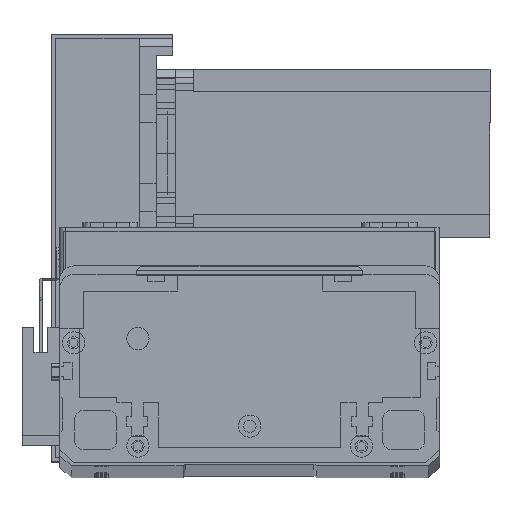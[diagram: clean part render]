
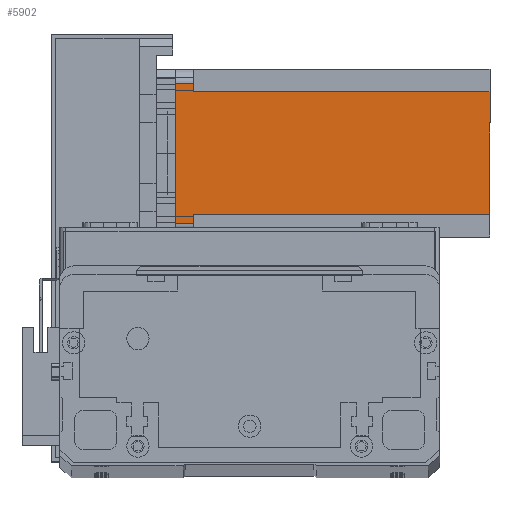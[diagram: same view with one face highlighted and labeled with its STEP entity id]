
A CAD part, top view. The second image highlights one B-rep face of the part: STEP entity #5902.
In plain terms, the highlighted planar face has unit normal (0, 0, 1) as drawn and (0, -1, 0) by its records, which use the part's own axes.
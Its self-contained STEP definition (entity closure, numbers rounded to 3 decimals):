
#375 = ORIENTED_EDGE ( 'NONE', *, *, #24378, .F. ) ;
#950 = CARTESIAN_POINT ( 'NONE',  ( 8., 0., -112.5 ) ) ;
#979 = EDGE_LOOP ( 'NONE', ( #23464, #2568, #9602, #11728, #375, #29562, #9226, #14332 ) ) ;
#1049 = VERTEX_POINT ( 'NONE', #22231 ) ;
#1223 = CARTESIAN_POINT ( 'NONE',  ( 8., 0., -6.5 ) ) ;
#2568 = ORIENTED_EDGE ( 'NONE', *, *, #23502, .T. ) ;
#4969 = CARTESIAN_POINT ( 'NONE',  ( 0., 0., -112.5 ) ) ;
#5100 = PLANE ( 'NONE',  #12643 ) ;
#5138 = DIRECTION ( 'NONE',  ( 0., -1., 0. ) ) ;
#5165 = DIRECTION ( 'NONE',  ( 0., 0., -1. ) ) ;
#5411 = VECTOR ( 'NONE', #24862, 1000. ) ;
#5902 = ADVANCED_FACE ( 'NONE', ( #26648 ), #5100, .T. ) ;
#6650 = DIRECTION ( 'NONE',  ( 0., 0., -1. ) ) ;
#6812 = VERTEX_POINT ( 'NONE', #1223 ) ;
#6894 = DIRECTION ( 'NONE',  ( 1., 0., 0. ) ) ;
#7329 = VERTEX_POINT ( 'NONE', #12982 ) ;
#8804 = LINE ( 'NONE', #24829, #26979 ) ;
#9226 = ORIENTED_EDGE ( 'NONE', *, *, #24978, .T. ) ;
#9602 = ORIENTED_EDGE ( 'NONE', *, *, #15748, .F. ) ;
#9853 = LINE ( 'NONE', #30039, #27996 ) ;
#10680 = VECTOR ( 'NONE', #6650, 1000. ) ;
#10839 = CARTESIAN_POINT ( 'NONE',  ( 52., 0., -6.5 ) ) ;
#10865 = CARTESIAN_POINT ( 'NONE',  ( 55., 0., -6.5 ) ) ;
#11419 = DIRECTION ( 'NONE',  ( -1., 0., 0. ) ) ;
#11728 = ORIENTED_EDGE ( 'NONE', *, *, #23711, .T. ) ;
#11743 = LINE ( 'NONE', #950, #5411 ) ;
#12643 = AXIS2_PLACEMENT_3D ( 'NONE', #4969, #5138, #5165 ) ;
#12879 = LINE ( 'NONE', #30236, #10680 ) ;
#12982 = CARTESIAN_POINT ( 'NONE',  ( 5., 0., 0. ) ) ;
#13121 = VERTEX_POINT ( 'NONE', #10839 ) ;
#13520 = DIRECTION ( 'NONE',  ( 0., 0., -1. ) ) ;
#13765 = DIRECTION ( 'NONE',  ( 1., 0., 0. ) ) ;
#14332 = ORIENTED_EDGE ( 'NONE', *, *, #25542, .F. ) ;
#14368 = VECTOR ( 'NONE', #11419, 1000. ) ;
#15393 = VERTEX_POINT ( 'NONE', #30536 ) ;
#15748 = EDGE_CURVE ( 'NONE', #7329, #15393, #22371, .T. ) ;
#16755 = VECTOR ( 'NONE', #18868, 1000. ) ;
#17816 = VECTOR ( 'NONE', #6894, 1000. ) ;
#18548 = CARTESIAN_POINT ( 'NONE',  ( 8., 0., -6.5 ) ) ;
#18556 = LINE ( 'NONE', #30366, #17816 ) ;
#18868 = DIRECTION ( 'NONE',  ( 1., 0., 0. ) ) ;
#18945 = CARTESIAN_POINT ( 'NONE',  ( 0., 0., 0. ) ) ;
#18952 = VERTEX_POINT ( 'NONE', #25802 ) ;
#20917 = CARTESIAN_POINT ( 'NONE',  ( 5., 0., -6.5 ) ) ;
#21265 = VERTEX_POINT ( 'NONE', #20917 ) ;
#22231 = CARTESIAN_POINT ( 'NONE',  ( 8., 0., -112.5 ) ) ;
#22371 = LINE ( 'NONE', #18945, #16755 ) ;
#23216 = EDGE_CURVE ( 'NONE', #13121, #28954, #18556, .T. ) ;
#23464 = ORIENTED_EDGE ( 'NONE', *, *, #23216, .T. ) ;
#23502 = EDGE_CURVE ( 'NONE', #28954, #15393, #8804, .T. ) ;
#23711 = EDGE_CURVE ( 'NONE', #7329, #21265, #12879, .T. ) ;
#24378 = EDGE_CURVE ( 'NONE', #6812, #21265, #26987, .T. ) ;
#24791 = EDGE_CURVE ( 'NONE', #1049, #6812, #11743, .T. ) ;
#24819 = LINE ( 'NONE', #25648, #30116 ) ;
#24829 = CARTESIAN_POINT ( 'NONE',  ( 55., 0., -112.5 ) ) ;
#24862 = DIRECTION ( 'NONE',  ( 0., 0., 1. ) ) ;
#24978 = EDGE_CURVE ( 'NONE', #1049, #18952, #24819, .T. ) ;
#25542 = EDGE_CURVE ( 'NONE', #13121, #18952, #9853, .T. ) ;
#25648 = CARTESIAN_POINT ( 'NONE',  ( 0., 0., -112.5 ) ) ;
#25802 = CARTESIAN_POINT ( 'NONE',  ( 52., 0., -112.5 ) ) ;
#26648 = FACE_OUTER_BOUND ( 'NONE', #979, .T. ) ;
#26979 = VECTOR ( 'NONE', #27119, 1000. ) ;
#26987 = LINE ( 'NONE', #18548, #14368 ) ;
#27119 = DIRECTION ( 'NONE',  ( 0., 0., 1. ) ) ;
#27996 = VECTOR ( 'NONE', #13520, 1000. ) ;
#28954 = VERTEX_POINT ( 'NONE', #10865 ) ;
#29562 = ORIENTED_EDGE ( 'NONE', *, *, #24791, .F. ) ;
#30039 = CARTESIAN_POINT ( 'NONE',  ( 52., 0., -112.5 ) ) ;
#30116 = VECTOR ( 'NONE', #13765, 1000. ) ;
#30236 = CARTESIAN_POINT ( 'NONE',  ( 5., 0., -112.5 ) ) ;
#30366 = CARTESIAN_POINT ( 'NONE',  ( 52., 0., -6.5 ) ) ;
#30536 = CARTESIAN_POINT ( 'NONE',  ( 55., 0., 0. ) ) ;
